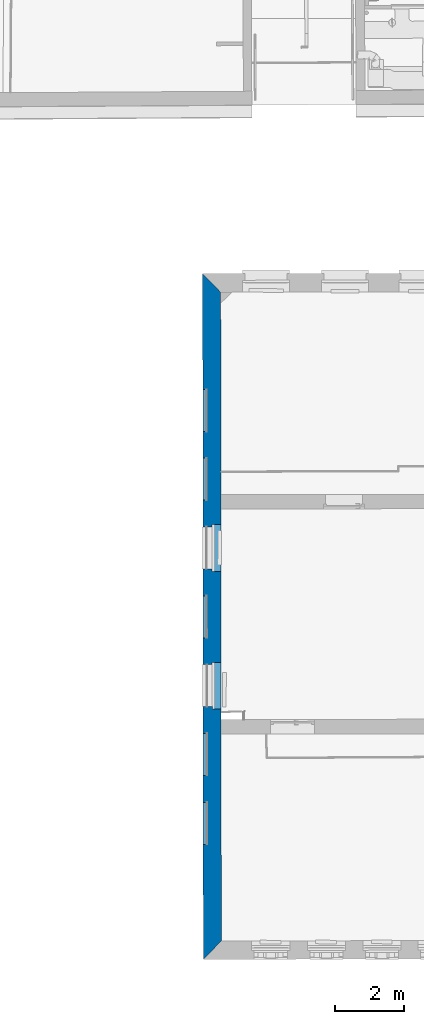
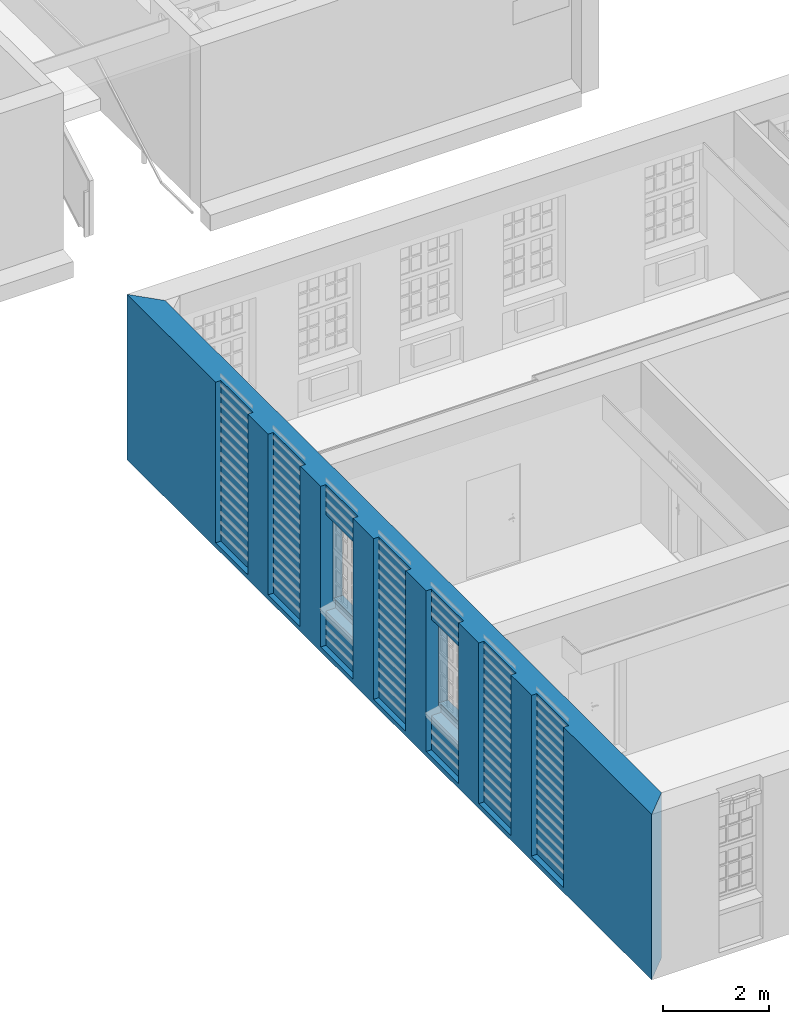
# One storey, part 15 of 158: 1 wall, 10 openings.
"""IFC2X3 building model written with IfcOpenShell, lengths in metres."""

from ifc_helpers import new_model, entity, si_unit, converted_unit, derived_unit, money_unit, direction, frame, origin_with_axes, origin_2d_with_axis, place, context, subcontext, project, spatial, polyline, rectangle, outline, extrude, material, layer, layer_set, layer_usage, type_object, element, save


model = new_model("IFC2X3")

# Units and contexts
model_context = context("Model", 3, precision=1e-05, world=origin_with_axes(), true_north=direction((0.0, 1.0)))
body_context = subcontext(model_context, "Body", "Model", "MODEL_VIEW")
ifc_project = project(units=[si_unit("LENGTHUNIT", "METRE"), si_unit("AREAUNIT", "SQUARE_METRE"), si_unit("VOLUMEUNIT", "CUBIC_METRE"), converted_unit("PLANEANGLEUNIT", "DEGREE", entity("IfcPlaneAngleMeasure", 0.0174532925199), si_unit("PLANEANGLEUNIT", "RADIAN"), dimensions=[0, 0, 0, 0, 0, 0, 0]), money_unit("EUR"), converted_unit("TIMEUNIT", "Year", entity("IfcTimeMeasure", 31556926.0), si_unit("TIMEUNIT", "SECOND"), dimensions=[0, 0, 1, 0, 0, 0, 0]), si_unit("MASSUNIT", "GRAM", prefix="KILO"), si_unit("THERMODYNAMICTEMPERATUREUNIT", "DEGREE_CELSIUS"), si_unit("LUMINOUSINTENSITYUNIT", "LUMEN"), si_unit("ENERGYUNIT", "JOULE", prefix="MEGA"), derived_unit("THERMALCONDUCTANCEUNIT", [(si_unit("POWERUNIT", "WATT"), 1), (si_unit("LENGTHUNIT", "METRE"), -1), (si_unit("THERMODYNAMICTEMPERATUREUNIT", "KELVIN"), -1)]), derived_unit("SPECIFICHEATCAPACITYUNIT", [(si_unit("ENERGYUNIT", "JOULE"), 1), (si_unit("MASSUNIT", "GRAM", prefix="KILO"), -1), (si_unit("THERMODYNAMICTEMPERATUREUNIT", "KELVIN"), -1)]), derived_unit("MASSDENSITYUNIT", [(si_unit("MASSUNIT", "GRAM", prefix="KILO"), 1), (si_unit("VOLUMEUNIT", "CUBIC_METRE"), -1)])], contexts=[model_context])

# Site, building, storey
site_placement = place(None, origin_with_axes())
site = spatial("IfcSite", under=ifc_project, at=site_placement, Name="Gelände", CompositionType="ELEMENT")
building_placement = place(site_placement, origin_with_axes())
building = spatial("IfcBuilding", under=site, at=building_placement, Name="Gebäude", CompositionType="ELEMENT")
storey_placement = place(building_placement, origin_with_axes())
storey = spatial("IfcBuildingStorey", under=building, at=storey_placement, Name="ERDGESCHOSS", CompositionType="ELEMENT", Elevation=0.0)

# Wall, openings
ifc_material = material(Name="05_ALLGEMEIN - TRAGENDE BAUTEILE")
ifc_layer = layer(ifc_material, 0.52, ventilated="UNKNOWN")
ifc_layer_set = layer_set([ifc_layer], Name="05_ALLGEMEIN - TRAGENDE BAUTEILE 0.52")
ifc_layer_usage = layer_usage(ifc_layer_set, "AXIS2", "NEGATIVE", 0.52)
wall_type = type_object("IfcWallType", Name="05_ALLGEMEIN - TRAGENDE BAUTEILE 520", PredefinedType="ELEMENTEDWALL")
wall_placement = place(storey_placement, frame((-28.0687217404, 26.02827308, -0.21), z_axis=(0.0, 0.0, 1.0), x_axis=(0.000934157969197, -0.999999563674, 0.0)))
wall = element("IfcWallStandardCase", 1, at=wall_placement, inside=storey, type_object=wall_type, material=ifc_layer_usage, Name="Wand-029", ObjectType="ELEMENTEDWALL", context=body_context, shape_type="SweptSolid", body=[
    extrude(outline(polyline([(0.0, 0.0), (19.7681014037, 0.0), (19.2374805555, 0.52), (0.534760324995, 0.52), (0.0, 0.0)])), origin_with_axes(), (0.0, 0.0, 1.0), 3.81),
])
opening_1_placement = place(wall_placement, frame((11.8770500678, 0.0, 1.07994684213), z_axis=(0.0, 0.0, 1.0), x_axis=(1.0, 0.0, 0.0)))
element("IfcOpeningElement", 2, at=opening_1_placement, cuts=wall, Name="Fenster-015", context=body_context, shape_type="SweptSolid", body=[
    extrude(rectangle(XDim=1.21197006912, YDim=2.03222749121, at=origin_2d_with_axis()), frame((0.0, 0.264569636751, 1.0161137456), z_axis=(0.0, -1.0, 0.0), x_axis=(-1.0, 0.0, 0.0)), (0.0, 0.0, 1.0), 0.784569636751),
    extrude(rectangle(XDim=1.35197006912, YDim=2.10222749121, at=origin_2d_with_axis()), frame((0.0, 0.264569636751, 1.0511137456), z_axis=(0.0, 1.0, 0.0), x_axis=(-1.0, 0.0, 0.0)), (0.0, 0.0, 1.0), 0.775430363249),
    extrude(rectangle(XDim=1.21197006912, YDim=0.183168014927, at=origin_2d_with_axis()), frame((0.0, 0.325612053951, -0.0915840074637), z_axis=(0.0, -1.0, 0.0), x_axis=(-1.0, 0.0, 0.0)), (0.0, 0.0, 1.0), 0.581042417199),
])
opening_2_placement = place(wall_placement, frame((7.90417346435, 0.0, 1.07994684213), z_axis=(0.0, 0.0, 1.0), x_axis=(1.0, 0.0, 0.0)))
element("IfcOpeningElement", 3, at=opening_2_placement, cuts=wall, Name="Fenster-015", context=body_context, shape_type="SweptSolid", body=[
    extrude(rectangle(XDim=1.21197006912, YDim=2.03222749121, at=origin_2d_with_axis()), frame((0.0, 0.264569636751, 1.0161137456), z_axis=(0.0, -1.0, 0.0), x_axis=(-1.0, 0.0, 0.0)), (0.0, 0.0, 1.0), 0.784569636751),
    extrude(rectangle(XDim=1.35197006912, YDim=2.10222749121, at=origin_2d_with_axis()), frame((0.0, 0.264569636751, 1.0511137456), z_axis=(0.0, 1.0, 0.0), x_axis=(-1.0, 0.0, 0.0)), (0.0, 0.0, 1.0), 0.775430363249),
    extrude(rectangle(XDim=1.21197006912, YDim=0.183168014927, at=origin_2d_with_axis()), frame((0.0, 0.325612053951, -0.0915840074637), z_axis=(0.0, -1.0, 0.0), x_axis=(-1.0, 0.0, 0.0)), (0.0, 0.0, 1.0), 0.581042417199),
])
opening_3_placement = place(wall_placement, frame((13.8574491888, 0.0, 0.11), z_axis=(0.0, 0.0, 1.0), x_axis=(1.0, 0.0, 0.0)))
element("IfcOpeningElement", 4, at=opening_3_placement, cuts=wall, Name="Fenster-015", ObjectType="Recess", context=body_context, shape_type="SweptSolid", body=[
    extrude(rectangle(XDim=1.212, YDim=3.7, at=origin_2d_with_axis()), frame((0.0, 0.11528824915, 1.85), z_axis=(0.0, -1.0, 0.0), x_axis=(-1.0, 0.0, 0.0)), (0.0, 0.0, 1.0), 0.63528824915),
])
opening_4_placement = place(wall_placement, frame((11.8770500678, 0.0, 0.11), z_axis=(0.0, 0.0, 1.0), x_axis=(1.0, 0.0, 0.0)))
element("IfcOpeningElement", 5, at=opening_4_placement, cuts=wall, Name="Fenster-015", ObjectType="Recess", context=body_context, shape_type="SweptSolid", body=[
    extrude(rectangle(XDim=1.21197006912, YDim=3.7, at=origin_2d_with_axis()), frame((0.0, 0.11528824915, 1.85), z_axis=(0.0, -1.0, 0.0), x_axis=(-1.0, 0.0, 0.0)), (0.0, 0.0, 1.0), 0.63528824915),
])
opening_5_placement = place(wall_placement, frame((15.8455849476, 0.0, 0.11), z_axis=(0.0, 0.0, 1.0), x_axis=(1.0, 0.0, 0.0)))
element("IfcOpeningElement", 6, at=opening_5_placement, cuts=wall, Name="Fenster-015", ObjectType="Recess", context=body_context, shape_type="SweptSolid", body=[
    extrude(rectangle(XDim=1.212, YDim=3.7, at=origin_2d_with_axis()), frame((0.0, 0.11528824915, 1.85), z_axis=(0.0, -1.0, 0.0), x_axis=(-1.0, 0.0, 0.0)), (0.0, 0.0, 1.0), 0.63528824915),
])
opening_6_placement = place(wall_placement, frame((9.89393737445, 0.0, 0.11), z_axis=(0.0, 0.0, 1.0), x_axis=(1.0, 0.0, 0.0)))
element("IfcOpeningElement", 7, at=opening_6_placement, cuts=wall, Name="Fenster-015", ObjectType="Recess", context=body_context, shape_type="SweptSolid", body=[
    extrude(rectangle(XDim=1.212, YDim=3.7, at=origin_2d_with_axis()), frame((0.0, 0.11528824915, 1.85), z_axis=(0.0, -1.0, 0.0), x_axis=(-1.0, 0.0, 0.0)), (0.0, 0.0, 1.0), 0.63528824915),
])
opening_7_placement = place(wall_placement, frame((7.90418842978, 0.0, 0.11), z_axis=(0.0, 0.0, 1.0), x_axis=(1.0, 0.0, 0.0)))
element("IfcOpeningElement", 8, at=opening_7_placement, cuts=wall, Name="Fenster-015", ObjectType="Recess", context=body_context, shape_type="SweptSolid", body=[
    extrude(rectangle(XDim=1.212, YDim=3.7, at=origin_2d_with_axis()), frame((0.0, 0.11528824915, 1.85), z_axis=(0.0, -1.0, 0.0), x_axis=(-1.0, 0.0, 0.0)), (0.0, 0.0, 1.0), 0.63528824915),
])
opening_8_placement = place(wall_placement, frame((5.92275110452, 0.0, 0.11), z_axis=(0.0, 0.0, 1.0), x_axis=(1.0, 0.0, 0.0)))
element("IfcOpeningElement", 9, at=opening_8_placement, cuts=wall, Name="Fenster-015", ObjectType="Recess", context=body_context, shape_type="SweptSolid", body=[
    extrude(rectangle(XDim=1.212, YDim=3.7, at=origin_2d_with_axis()), frame((0.0, 0.11528824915, 1.85), z_axis=(0.0, -1.0, 0.0), x_axis=(-1.0, 0.0, 0.0)), (0.0, 0.0, 1.0), 0.63528824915),
])
opening_9_placement = place(wall_placement, frame((3.94731426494, 0.0, 0.11), z_axis=(0.0, 0.0, 1.0), x_axis=(1.0, 0.0, 0.0)))
element("IfcOpeningElement", 10, at=opening_9_placement, cuts=wall, Name="Fenster-015", ObjectType="Recess", context=body_context, shape_type="SweptSolid", body=[
    extrude(rectangle(XDim=1.212, YDim=3.7, at=origin_2d_with_axis()), frame((0.0, 0.11528824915, 1.85), z_axis=(0.0, -1.0, 0.0), x_axis=(-1.0, 0.0, 0.0)), (0.0, 0.0, 1.0), 0.63528824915),
])
opening_10_placement = place(wall_placement, frame((7.90543483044, 0.0, 0.1), z_axis=(0.0, 0.0, 1.0), x_axis=(1.0, 0.0, 0.0)))
element("IfcOpeningElement", 11, at=opening_10_placement, cuts=wall, Name="Fenster-016", ObjectType="Recess", context=body_context, shape_type="SweptSolid", body=[
    extrude(rectangle(XDim=1.39316564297, YDim=0.826948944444, at=origin_2d_with_axis()), frame((0.0, 0.398027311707, 0.413474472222), z_axis=(0.0, -1.0, 0.0), x_axis=(1.0, 0.0, 0.0)), (0.0, 0.0, -1.0), 0.641972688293),
])

save(model, "model.ifc")
